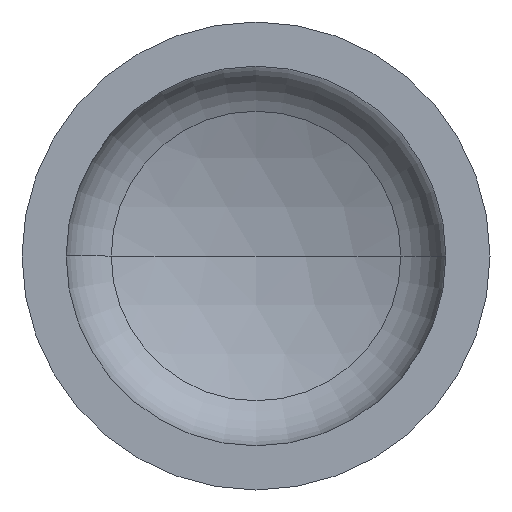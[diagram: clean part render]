
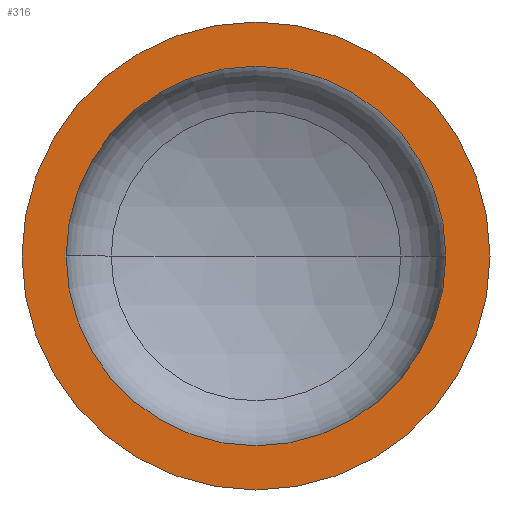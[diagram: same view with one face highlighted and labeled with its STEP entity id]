
A CAD part, front view. The second image highlights one B-rep face of the part: STEP entity #316.
In plain terms, the highlighted planar face has unit normal (0, -1, 0).
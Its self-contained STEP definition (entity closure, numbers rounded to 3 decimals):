
#5 = VERTEX_POINT ( 'NONE', #311 ) ;
#8 = CARTESIAN_POINT ( 'NONE',  ( -350., 0., 0. ) ) ;
#9 = AXIS2_PLACEMENT_3D ( 'NONE', #341, #187, #255 ) ;
#13 = AXIS2_PLACEMENT_3D ( 'NONE', #8, #300, #167 ) ;
#15 = VERTEX_POINT ( 'NONE', #365 ) ;
#20 = EDGE_LOOP ( 'NONE', ( #55, #39 ) ) ;
#29 = ORIENTED_EDGE ( 'NONE', *, *, #332, .F. ) ;
#39 = ORIENTED_EDGE ( 'NONE', *, *, #125, .T. ) ;
#55 = ORIENTED_EDGE ( 'NONE', *, *, #364, .T. ) ;
#83 = AXIS2_PLACEMENT_3D ( 'NONE', #159, #293, #101 ) ;
#85 = FACE_OUTER_BOUND ( 'NONE', #20, .T. ) ;
#90 = AXIS2_PLACEMENT_3D ( 'NONE', #409, #266, #363 ) ;
#99 = VERTEX_POINT ( 'NONE', #247 ) ;
#101 = DIRECTION ( 'NONE',  ( 1., 0., 0. ) ) ;
#107 = ORIENTED_EDGE ( 'NONE', *, *, #133, .F. ) ;
#108 = VERTEX_POINT ( 'NONE', #268 ) ;
#125 = EDGE_CURVE ( 'NONE', #5, #108, #212, .T. ) ;
#133 = EDGE_CURVE ( 'NONE', #99, #15, #143, .T. ) ;
#143 = CIRCLE ( 'NONE', #83, 284. ) ;
#159 = CARTESIAN_POINT ( 'NONE',  ( 0., 0., 0. ) ) ;
#167 = DIRECTION ( 'NONE',  ( -1., 0., 0. ) ) ;
#187 = DIRECTION ( 'NONE',  ( 0., -1., 0. ) ) ;
#212 = CIRCLE ( 'NONE', #90, 350. ) ;
#215 = DIRECTION ( 'NONE',  ( 0., -1., 0. ) ) ;
#247 = CARTESIAN_POINT ( 'NONE',  ( 284., 0., 0. ) ) ;
#255 = DIRECTION ( 'NONE',  ( 1., 0., 0. ) ) ;
#266 = DIRECTION ( 'NONE',  ( 0., -1., 0. ) ) ;
#268 = CARTESIAN_POINT ( 'NONE',  ( 350., 0., 0. ) ) ;
#279 = EDGE_LOOP ( 'NONE', ( #107, #29 ) ) ;
#283 = FACE_BOUND ( 'NONE', #279, .T. ) ;
#293 = DIRECTION ( 'NONE',  ( 0., -1., 0. ) ) ;
#300 = DIRECTION ( 'NONE',  ( 0., 1., 0. ) ) ;
#311 = CARTESIAN_POINT ( 'NONE',  ( -350., 0., 0. ) ) ;
#316 = ADVANCED_FACE ( 'NONE', ( #283, #85 ), #322, .F. ) ;
#322 = PLANE ( 'NONE',  #13 ) ;
#328 = CIRCLE ( 'NONE', #374, 350. ) ;
#332 = EDGE_CURVE ( 'NONE', #15, #99, #343, .T. ) ;
#341 = CARTESIAN_POINT ( 'NONE',  ( 0., 0., 0. ) ) ;
#343 = CIRCLE ( 'NONE', #9, 284. ) ;
#351 = CARTESIAN_POINT ( 'NONE',  ( 0., 0., 0. ) ) ;
#363 = DIRECTION ( 'NONE',  ( 1., 0., 0. ) ) ;
#364 = EDGE_CURVE ( 'NONE', #108, #5, #328, .T. ) ;
#365 = CARTESIAN_POINT ( 'NONE',  ( -284., 0., 0. ) ) ;
#374 = AXIS2_PLACEMENT_3D ( 'NONE', #351, #215, #379 ) ;
#379 = DIRECTION ( 'NONE',  ( 1., 0., 0. ) ) ;
#409 = CARTESIAN_POINT ( 'NONE',  ( 0., 0., 0. ) ) ;
